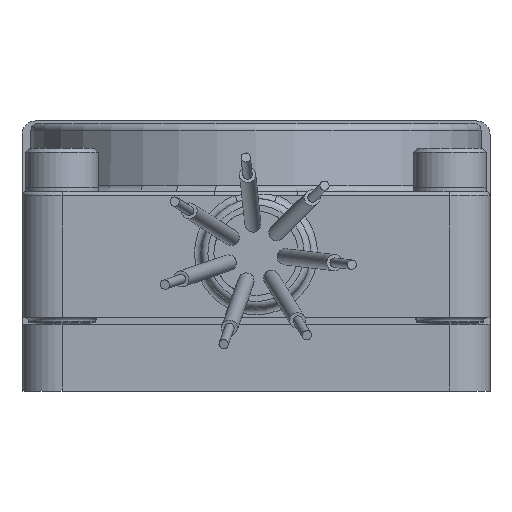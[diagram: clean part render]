
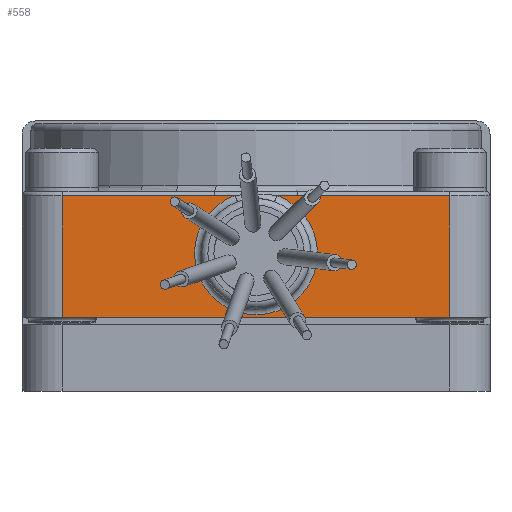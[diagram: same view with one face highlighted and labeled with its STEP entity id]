
A CAD part, front view. The second image highlights one B-rep face of the part: STEP entity #558.
In plain terms, the highlighted planar face has unit normal (0, -1, 0).
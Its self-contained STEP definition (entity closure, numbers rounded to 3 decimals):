
#558=ADVANCED_FACE('NONE',(#1279),#1280,.F.);
#1279=FACE_OUTER_BOUND('',#2609,.T.);
#1280=PLANE('',#2610);
#2609=EDGE_LOOP('',(#4236,#4237,#4238,#4239,#4240,#4241,#4242,#4243));
#2610=AXIS2_PLACEMENT_3D('',#4244,#4245,#4246);
#4236=ORIENTED_EDGE('',*,*,#5372,.T.);
#4237=ORIENTED_EDGE('',*,*,#5505,.T.);
#4238=ORIENTED_EDGE('',*,*,#5370,.T.);
#4239=ORIENTED_EDGE('',*,*,#5179,.T.);
#4240=ORIENTED_EDGE('',*,*,#5159,.T.);
#4241=ORIENTED_EDGE('',*,*,#5419,.F.);
#4242=ORIENTED_EDGE('',*,*,#5156,.T.);
#4243=ORIENTED_EDGE('',*,*,#5169,.T.);
#4244=CARTESIAN_POINT('',(-17.5,-47.5,-8.9));
#4245=DIRECTION('',(-0.0,1.0,0.0));
#4246=DIRECTION('',(1.0,0.0,0.0));
#5156=EDGE_CURVE('NONE',#5945,#5943,#5946,.T.);
#5159=EDGE_CURVE('NONE',#5949,#5950,#5951,.T.);
#5169=EDGE_CURVE('NONE',#5943,#5962,#5964,.T.);
#5179=EDGE_CURVE('NONE',#5971,#5949,#5979,.T.);
#5370=EDGE_CURVE('NONE',#6286,#5971,#6287,.T.);
#5372=EDGE_CURVE('NONE',#5962,#6288,#6290,.T.);
#5419=EDGE_CURVE('NONE',#5945,#5950,#6359,.T.);
#5505=EDGE_CURVE('NONE',#6288,#6286,#6489,.T.);
#5943=VERTEX_POINT('NONE',#7098);
#5945=VERTEX_POINT('NONE',#7100);
#5946=LINE('',#7101,#7102);
#5949=VERTEX_POINT('NONE',#7105);
#5950=VERTEX_POINT('NONE',#7106);
#5951=LINE('',#7107,#7108);
#5962=VERTEX_POINT('NONE',#7120);
#5964=LINE('',#7122,#7123);
#5971=VERTEX_POINT('NONE',#7131);
#5979=LINE('',#7141,#7142);
#6286=VERTEX_POINT('NONE',#7508);
#6287=B_SPLINE_CURVE_WITH_KNOTS('',3,(#7509,#7510,#7511,#7512),.UNSPECIFIED.,.F.,.F.,(4,4),(0.005,0.006),.UNSPECIFIED.);
#6288=VERTEX_POINT('NONE',#7513);
#6290=B_SPLINE_CURVE_WITH_KNOTS('',3,(#7525,#7526,#7527,#7528),.UNSPECIFIED.,.F.,.F.,(4,4),(0.0,0.002),.UNSPECIFIED.);
#6359=LINE('',#7666,#7667);
#6489=CIRCLE('',#7848,4.6);
#7098=CARTESIAN_POINT('',(14.5,-47.5,0.2));
#7100=CARTESIAN_POINT('',(14.5,-47.5,-8.9));
#7101=CARTESIAN_POINT('',(14.5,-47.5,-8.9));
#7102=VECTOR('',#8593,1.0);
#7105=CARTESIAN_POINT('',(-14.5,-47.5,0.2));
#7106=CARTESIAN_POINT('',(-14.5,-47.5,-8.9));
#7107=CARTESIAN_POINT('',(-14.5,-47.5,-8.9));
#7108=VECTOR('',#8597,1.0);
#7120=CARTESIAN_POINT('',(3.132,-47.5,0.2));
#7122=CARTESIAN_POINT('',(-14.5,-47.5,0.2));
#7123=VECTOR('',#8617,1.0);
#7131=CARTESIAN_POINT('',(-3.132,-47.5,0.2));
#7141=CARTESIAN_POINT('',(-14.5,-47.5,0.2));
#7142=VECTOR('',#8633,1.0);
#7508=CARTESIAN_POINT('',(-1.556,-47.5,0.229));
#7509=CARTESIAN_POINT('',(-1.556,-47.5,0.229));
#7510=CARTESIAN_POINT('',(-2.081,-47.5,0.216));
#7511=CARTESIAN_POINT('',(-2.607,-47.5,0.2));
#7512=CARTESIAN_POINT('',(-3.132,-47.5,0.2));
#7513=CARTESIAN_POINT('',(1.556,-47.5,0.229));
#7525=CARTESIAN_POINT('',(3.132,-47.5,0.2));
#7526=CARTESIAN_POINT('',(2.607,-47.5,0.2));
#7527=CARTESIAN_POINT('',(2.081,-47.5,0.216));
#7528=CARTESIAN_POINT('',(1.556,-47.5,0.229));
#7666=CARTESIAN_POINT('',(-17.5,-47.5,-8.9));
#7667=VECTOR('',#9012,1.0);
#7848=AXIS2_PLACEMENT_3D('',#9122,#9123,#9124);
#8593=DIRECTION('',(0.0,0.0,1.0));
#8597=DIRECTION('',(0.0,0.0,-1.0));
#8617=DIRECTION('',(-1.0,0.0,0.0));
#8633=DIRECTION('',(-1.0,0.0,0.0));
#9012=DIRECTION('',(-1.0,0.0,0.0));
#9122=CARTESIAN_POINT('',(0.,-47.5,-4.1));
#9123=DIRECTION('',(0.0,1.0,0.0));
#9124=DIRECTION('',(0.0,0.0,1.0));
